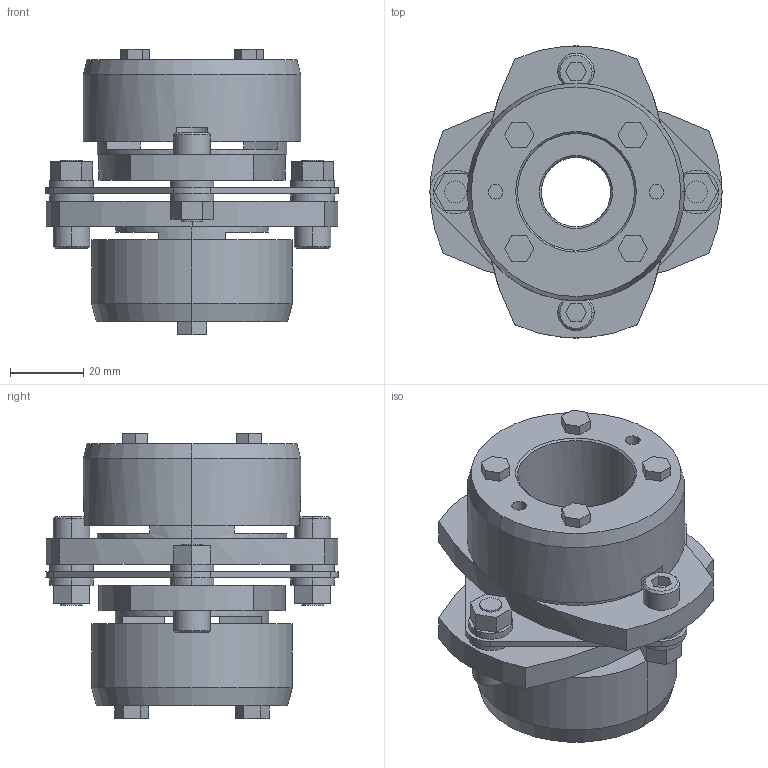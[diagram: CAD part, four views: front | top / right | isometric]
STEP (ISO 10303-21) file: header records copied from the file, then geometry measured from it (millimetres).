
FILE_DESCRIPTION((''),'2;1');
FILE_NAME('LCS-80T7-19×32.stp','2011-09-12T15:29:44',(''),(''),'AutoCAD STEP 2000i','AutoCAD 2000i',', , ');
FILE_SCHEMA(('CONFIG_CONTROL_DESIGN'));
Length unit declared in the file: millimetre
Products named in the file (12): LCS-80T7-19×32; 忣兜1; LC80T7-T032; LC80T7-T030; LC80T7-T028; LC80T7-T024; LC80T7-T022; LC80T7-T019-1; LC80T7-T019; LC80T7-T017-1; LC80T7-T017; LCS80-ITA
Assembly tree (11 placements, depth 2):
  LCS-80T7-19×32
    忣兜1
    LC80T7-T032
    LC80T7-T030
    LC80T7-T028
    LC80T7-T024
    LC80T7-T022
    LC80T7-T019-1
    LC80T7-T019
    LC80T7-T017-1
    LC80T7-T017
    LCS80-ITA
Bounding box: 80 x 79.95 x 78.05 mm (x, y, z)
Volume: 146672 mm3; surface area: 42820.5 mm2
Topology: 1 solids, 1 shells, 239 faces, 588 edges, 384 vertices
Faces by surface type: plane 137, cylinder 82, cone 20
Entity records: 7367 total; most frequent: DIRECTION 1302, CARTESIAN_POINT 1223, ORIENTED_EDGE 1176, EDGE_CURVE 588, AXIS2_PLACEMENT_3D 463, VERTEX_POINT 384, VECTOR 376, LINE 376
